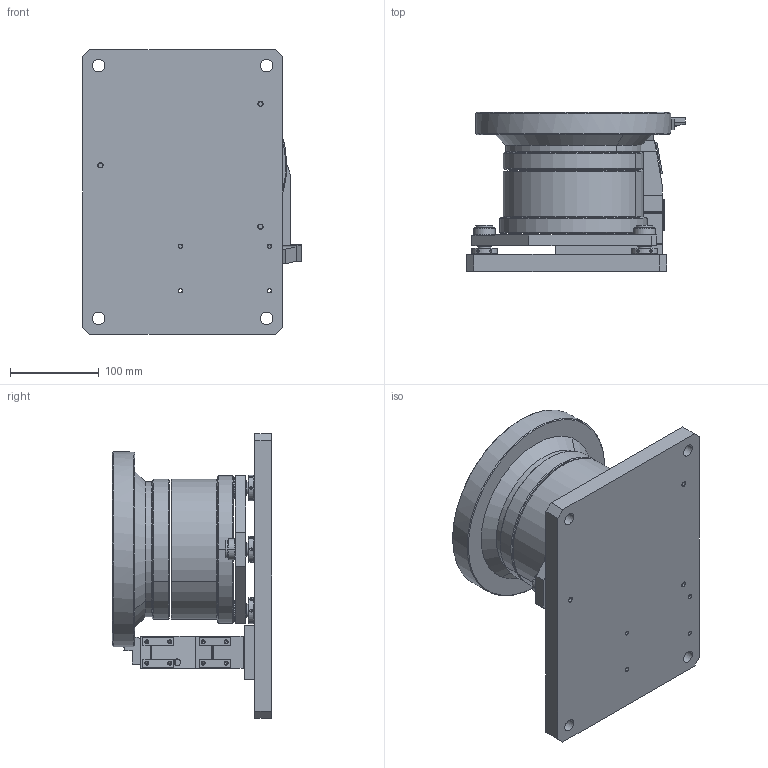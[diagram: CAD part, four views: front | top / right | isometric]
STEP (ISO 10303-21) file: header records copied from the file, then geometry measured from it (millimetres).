
FILE_DESCRIPTION((''),'2;1');
FILE_NAME('G_ASM','2021-09-02T10:53:41',('Administrator'),(''),'CREO PARAMETRIC BY PTC INC, 2020154','CREO PARAMETRIC BY PTC INC, 2020154','');
FILE_SCHEMA(('CONFIG_CONTROL_DESIGN'));
Length unit declared in the file: millimetre
Products named in the file (30): G1; BU160-1; BU160-2; BU160-3; BU160-4; BU140-20; BU140-21; BU140-22; BU140_5_ASM; BU160_ASM; C200-150; C10; B_ASM; LF100C-1; LF100C-2; SPRING35-9; LF100C-3; EM35-15-24_5; EM35-15-I; LF100C-15; LF100C_V_ASM; LF100C-10; LF100C-11; LF100C-12; LF100C_B_ASM; LF100C_ASM; LT1; LT3; LT_ASM; G_ASM
Assembly tree (40 placements, depth 4):
  G_ASM
    G1
    BU160_ASM
      BU160-1
      BU160-2
      BU160-3
      BU160-4
      BU140_5_ASM  x3
        BU140-20
        BU140-21
        BU140-22
    B_ASM
      C200-150
      C10
    LF100C_ASM
      LF100C_V_ASM
        LF100C-1
        LF100C-2
        SPRING35-9  x4
        LF100C-3  x2
        EM35-15-24_5
        EM35-15-I
        LF100C-15  x2
      LF100C_B_ASM
        LF100C-10
        LF100C-11
        LF100C-12
        SPRING35-9  x4
    LT_ASM
      LT1
      LT3
Bounding box: 246 x 179 x 320 mm (x, y, z)
Volume: 4245655 mm3; surface area: 678180.5 mm2
Topology: 37 solids, 91 shells, 908 faces, 2217 edges, 1410 vertices
Faces by surface type: cylinder 456, plane 306, cone 146
Entity records: 20974 total; most frequent: DIRECTION 3951, CARTESIAN_POINT 3668, ORIENTED_EDGE 3006, EDGE_CURVE 1607, AXIS2_PLACEMENT_3D 1571, VERTEX_POINT 1066, EDGE_LOOP 853, VECTOR 809
